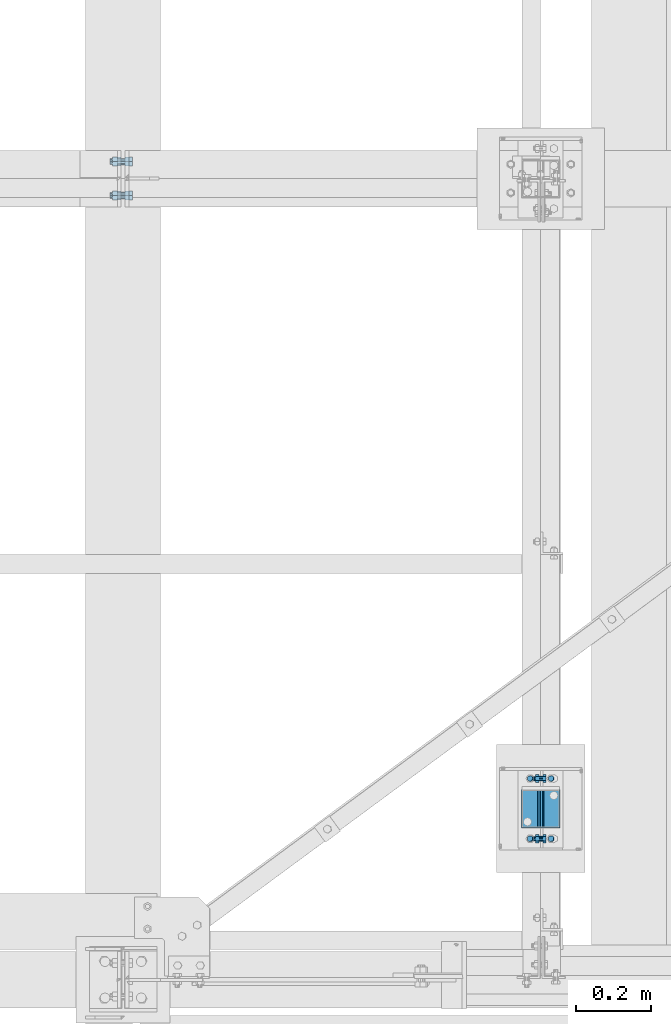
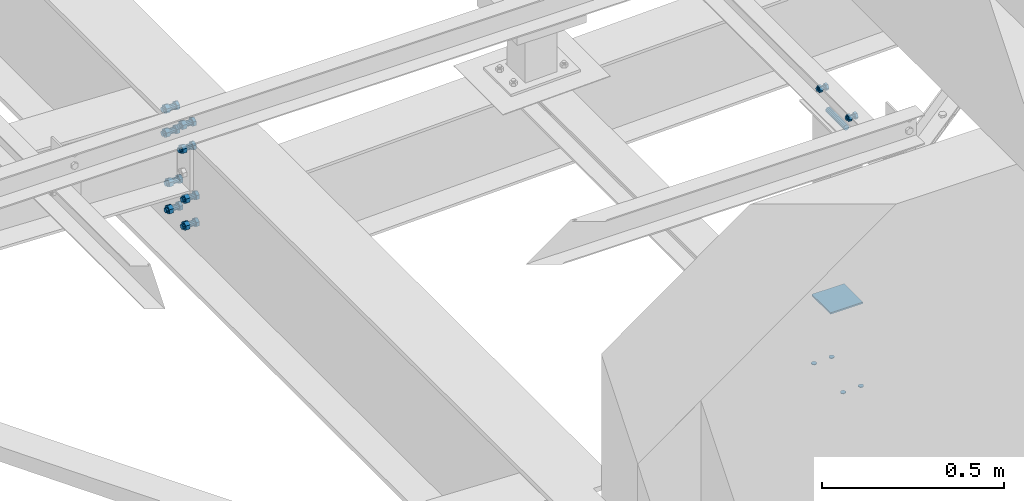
# One storey, part 18 of 3134: 8 mechanical fasteners, 4 elements without a shape of their own.
"""IFC2X3 building model written with IfcOpenShell, lengths in millimetres."""

from ifc_helpers import new_model, si_unit, frame, origin_with_axes, place, context, subcontext, project, spatial, faceted_brep, source, transform, mapped, material, type_object, element, aggregate, save


model = new_model("IFC2X3")

# Units and contexts
model_context = context("Model", 3, precision=1e-05, world=origin_with_axes())
body_context = subcontext(model_context, "Body", "Model", "MODEL_VIEW")
ifc_project = project(units=[si_unit("LENGTHUNIT", "METRE", prefix="MILLI"), si_unit("AREAUNIT", "SQUARE_METRE"), si_unit("VOLUMEUNIT", "CUBIC_METRE"), si_unit("MASSUNIT", "GRAM", prefix="KILO"), si_unit("TIMEUNIT", "SECOND"), si_unit("PLANEANGLEUNIT", "RADIAN"), si_unit("SOLIDANGLEUNIT", "STERADIAN"), si_unit("THERMODYNAMICTEMPERATUREUNIT", "DEGREE_CELSIUS"), si_unit("LUMINOUSINTENSITYUNIT", "LUMEN")], contexts=[model_context])

# Site, building, storey
site_placement = place(None, origin_with_axes())
site = spatial("IfcSite", under=ifc_project, at=site_placement, CompositionType="ELEMENT")
building_placement = place(site_placement, origin_with_axes())
building = spatial("IfcBuilding", under=site, at=building_placement, Name="Undefined", CompositionType="ELEMENT")
storey_placement = place(building_placement, origin_with_axes())
storey = spatial("IfcBuildingStorey", under=building, at=storey_placement, Name="Undefined", CompositionType="ELEMENT", Elevation=0.0)

# Assembly, mechanical fastener
assembly_1_placement = place(storey_placement, origin_with_axes())
assembly_1 = element("IfcElementAssembly", 1, at=assembly_1_placement, inside=storey, AssemblyPlace="NOTDEFINED", PredefinedType="RIGID_FRAME")
ifc_material_1 = material(Name="8.8")
mechanical_fastener_type = type_object("IfcMechanicalFastenerType", Name="Bolt assembly")
shared_shape_1 = source(origin_with_axes(), body_context, "Body", "Brep", [
    faceted_brep([(10.9696551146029, -14.0, 0.0), (5.48482755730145, -14.0, 9.5), (-5.48482755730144, -14.0, 9.5), (-10.9696551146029, -14.0, 1.34339530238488e-15), (-5.48482755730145, -14.0, -9.5), (5.48482755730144, -14.0, -9.50000000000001), (5.48482755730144, -6.0, -9.50000000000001), (-5.48482755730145, -6.0, -9.5), (-10.9696551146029, -6.0, 1.34339530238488e-15), (-5.48482755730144, -6.0, 9.5), (5.48482755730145, -6.0, 9.5), (10.9696551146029, -6.0, 0.0), (6.0, -6.0, 0.0), (5.19615242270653, -6.0, 3.00000000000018), (2.99999999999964, -6.0, 5.19615242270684), (-6.21801588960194e-13, -6.0, 6.0), (-3.00000000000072, -6.0, 5.19615242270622), (-5.19615242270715, -6.0, 2.9999999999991), (-6.0, -6.0, -1.24360317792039e-12), (-5.19615242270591, -6.0, -3.00000000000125), (-2.99999999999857, -6.0, -5.19615242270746), (1.85874342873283e-12, -6.0, -6.0), (3.00000000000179, -6.0, -5.1961524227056), (5.19615242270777, -6.0, -2.99999999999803), (5.19615242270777, 19.0, -2.99999999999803), (3.00000000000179, 19.0, -5.1961524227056), (1.85874342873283e-12, 19.0, -6.0), (-2.99999999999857, 19.0, -5.19615242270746), (-5.19615242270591, 19.0, -3.00000000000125), (-6.0, 19.0, -1.24360317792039e-12), (-5.19615242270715, 19.0, 2.9999999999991), (-3.00000000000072, 19.0, 5.19615242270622), (-6.21801588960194e-13, 19.0, 6.0), (2.99999999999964, 19.0, 5.19615242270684), (5.19615242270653, 19.0, 3.00000000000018), (6.0, 19.0, 0.0), (10.9696551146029, 4.00000000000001, 0.0), (5.48482755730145, 4.00000000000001, 9.5), (-5.48482755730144, 4.00000000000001, 9.5), (-10.9696551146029, 4.00000000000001, 1.34339530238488e-15), (-5.48482755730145, 4.00000000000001, -9.5), (5.48482755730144, 4.00000000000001, -9.50000000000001), (5.48482755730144, 14.0, -9.50000000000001), (-5.48482755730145, 14.0, -9.5), (-10.9696551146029, 14.0, 1.34339530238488e-15), (-5.48482755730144, 14.0, 9.5), (5.48482755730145, 14.0, 9.5), (10.9696551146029, 14.0, 0.0)], [[[0, 1, 2, 3, 4, 5]], [[6, 7, 8, 9, 10, 11]], [[0, 11, 10, 1]], [[1, 10, 9, 2]], [[2, 9, 8, 3]], [[3, 8, 7, 4]], [[4, 7, 6, 5]], [[5, 6, 11, 0]], [[12, 13, 14, 15, 16, 17, 18, 19, 20, 21, 22, 23]], [[24, 25, 26, 27, 28, 29, 30, 31, 32, 33, 34, 35]], [[12, 35, 34, 13]], [[13, 34, 33, 14]], [[14, 33, 32, 15]], [[15, 32, 31, 16]], [[16, 31, 30, 17]], [[17, 30, 29, 18]], [[18, 29, 28, 19]], [[19, 28, 27, 20]], [[20, 27, 26, 21]], [[21, 26, 25, 22]], [[22, 25, 24, 23]], [[23, 24, 35, 12]], [[36, 37, 38, 39, 40, 41]], [[42, 43, 44, 45, 46, 47]], [[36, 47, 46, 37]], [[37, 46, 45, 38]], [[38, 45, 44, 39]], [[39, 44, 43, 40]], [[40, 43, 42, 41]], [[41, 42, 47, 36]]]),
    faceted_brep([(7.0, -5.9, 0.0), (6.06217782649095, -5.9, 3.50000000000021), (3.49999999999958, -5.9, 6.06217782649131), (-7.25435187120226e-13, -5.9, 7.0), (-3.50000000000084, -5.9, 6.06217782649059), (-6.06217782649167, -5.9, 3.49999999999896), (-7.0, -5.9, -1.45087037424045e-12), (-6.06217782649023, -5.9, -3.50000000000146), (-3.49999999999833, -5.9, -6.06217782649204), (2.1685340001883e-12, -5.9, -7.0), (3.50000000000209, -5.9, -6.06217782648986), (6.0621778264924, -5.9, -3.4999999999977), (6.0621778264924, 0.0999999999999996, -3.4999999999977), (3.50000000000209, 0.0999999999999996, -6.06217782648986), (2.1685340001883e-12, 0.0999999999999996, -7.0), (-3.49999999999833, 0.0999999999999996, -6.06217782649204), (-6.06217782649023, 0.0999999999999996, -3.50000000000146), (-7.0, 0.0999999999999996, -1.45087037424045e-12), (-6.06217782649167, 0.0999999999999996, 3.49999999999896), (-3.50000000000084, 0.0999999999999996, 6.06217782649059), (-7.25435187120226e-13, 0.0999999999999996, 7.0), (3.49999999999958, 0.0999999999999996, 6.06217782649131), (6.06217782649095, 0.0999999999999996, 3.50000000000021), (7.0, 0.0999999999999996, 0.0), (7.0, -0.1, 0.0), (6.06217782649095, -0.1, 3.50000000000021), (3.49999999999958, -0.1, 6.06217782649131), (-7.25435187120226e-13, -0.1, 7.0), (-3.50000000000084, -0.1, 6.06217782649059), (-6.06217782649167, -0.1, 3.49999999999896), (-7.0, -0.1, -1.45087037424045e-12), (-6.06217782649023, -0.1, -3.50000000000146), (-3.49999999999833, -0.1, -6.06217782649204), (2.1685340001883e-12, -0.1, -7.0), (3.50000000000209, -0.1, -6.06217782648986), (6.0621778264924, -0.1, -3.4999999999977), (6.0621778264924, 4.00000000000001, -3.4999999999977), (3.50000000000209, 4.00000000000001, -6.06217782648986), (2.1685340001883e-12, 4.00000000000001, -7.0), (-3.49999999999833, 4.00000000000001, -6.06217782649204), (-6.06217782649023, 4.00000000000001, -3.50000000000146), (-7.0, 4.00000000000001, -1.45087037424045e-12), (-6.06217782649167, 4.00000000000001, 3.49999999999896), (-3.50000000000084, 4.00000000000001, 6.06217782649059), (-7.25435187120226e-13, 4.00000000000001, 7.0), (3.49999999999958, 4.00000000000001, 6.06217782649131), (6.06217782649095, 4.00000000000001, 3.50000000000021), (7.0, 4.00000000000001, 0.0)], [[[0, 1, 2, 3, 4, 5, 6, 7, 8, 9, 10, 11]], [[12, 13, 14, 15, 16, 17, 18, 19, 20, 21, 22, 23]], [[0, 23, 22, 1]], [[1, 22, 21, 2]], [[2, 21, 20, 3]], [[3, 20, 19, 4]], [[4, 19, 18, 5]], [[5, 18, 17, 6]], [[6, 17, 16, 7]], [[7, 16, 15, 8]], [[8, 15, 14, 9]], [[9, 14, 13, 10]], [[10, 13, 12, 11]], [[11, 12, 23, 0]], [[24, 25, 26, 27, 28, 29, 30, 31, 32, 33, 34, 35]], [[36, 37, 38, 39, 40, 41, 42, 43, 44, 45, 46, 47]], [[24, 47, 46, 25]], [[25, 46, 45, 26]], [[26, 45, 44, 27]], [[27, 44, 43, 28]], [[28, 43, 42, 29]], [[29, 42, 41, 30]], [[30, 41, 40, 31]], [[31, 40, 39, 32]], [[32, 39, 38, 33]], [[33, 38, 37, 34]], [[34, 37, 36, 35]], [[35, 36, 47, 24]]]),
])
mechanical_fastener_1_placement = place(assembly_1_placement, frame((10405.0, 11305.0, 4300.0), z_axis=(0.0, 0.0, 1.0), x_axis=(0.0, 1.0, 0.0)))
mechanical_fastener_1 = element("IfcMechanicalFastener", 2, at=mechanical_fastener_1_placement, type_object=mechanical_fastener_type, material=ifc_material_1, Name="Bolt assembly", NominalDiameter=12.0, NominalLength=25.0, context=body_context, shape_type="MappedRepresentation", body=[
    mapped(shared_shape_1, transform((0.0, 0.0, 0.0))),
    mapped(shared_shape_1, transform((160.0, 0.0, 0.0))),
])
aggregate(assembly_1, [mechanical_fastener_1])

# Assembly, mechanical fasteners
assembly_2_placement = place(storey_placement, origin_with_axes())
assembly_2 = element("IfcElementAssembly", 3, at=assembly_2_placement, inside=storey, Name="IPE500", AssemblyPlace="NOTDEFINED", PredefinedType="RIGID_FRAME")
shared_shape_2 = source(origin_with_axes(), body_context, "Body", "Brep", [
    faceted_brep([(13.856406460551, 0.0, 0.0), (6.92820323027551, 0.0, 12.0), (-6.92820323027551, 0.0, 12.0), (-13.856406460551, 0.0, 1.69692038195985e-15), (-6.92820323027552, 0.0, -12.0), (6.9282032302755, 0.0, -12.0), (6.9282032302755, 9.99999995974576, -12.0), (-6.92820323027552, 9.99999995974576, -12.0), (-13.856406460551, 9.99999995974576, 1.69692038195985e-15), (-6.92820323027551, 9.99999995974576, 12.0), (6.92820323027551, 9.99999995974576, 12.0), (13.856406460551, 9.99999995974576, 0.0), (8.0, 9.99999995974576, 0.0), (6.92820323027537, 9.99999995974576, 4.00000000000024), (3.99999999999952, 9.99999995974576, 6.92820323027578), (-8.29068785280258e-13, 9.99999995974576, 8.0), (-4.00000000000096, 9.99999995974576, 6.92820323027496), (-6.9282032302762, 9.99999995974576, 3.99999999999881), (-8.0, 9.99999995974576, -1.65813757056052e-12), (-6.92820323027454, 9.99999995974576, -4.00000000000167), (-3.99999999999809, 9.99999995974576, -6.92820323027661), (2.47832457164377e-12, 9.99999995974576, -8.0), (4.00000000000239, 9.99999995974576, -6.92820323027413), (6.92820323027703, 9.99999995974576, -3.99999999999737), (6.92820323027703, 49.9999999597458, -3.99999999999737), (4.00000000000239, 49.9999999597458, -6.92820323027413), (2.47832457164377e-12, 49.9999999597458, -8.0), (-3.99999999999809, 49.9999999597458, -6.92820323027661), (-6.92820323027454, 49.9999999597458, -4.00000000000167), (-8.0, 49.9999999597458, -1.65813757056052e-12), (-6.9282032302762, 49.9999999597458, 3.99999999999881), (-4.00000000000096, 49.9999999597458, 6.92820323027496), (-8.29068785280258e-13, 49.9999999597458, 8.0), (3.99999999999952, 49.9999999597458, 6.92820323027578), (6.92820323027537, 49.9999999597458, 4.00000000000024), (8.0, 49.9999999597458, 0.0), (13.856406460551, 30.1999997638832, 0.0), (6.92820323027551, 30.1999997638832, 12.0), (-6.92820323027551, 30.1999997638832, 12.0), (-13.856406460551, 30.1999997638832, 1.69692038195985e-15), (-6.92820323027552, 30.1999997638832, -12.0), (6.9282032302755, 30.1999997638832, -12.0), (6.9282032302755, 43.1999997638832, -12.0), (-6.92820323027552, 43.1999997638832, -12.0), (-13.856406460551, 43.1999997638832, 1.69692038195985e-15), (-6.92820323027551, 43.1999997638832, 12.0), (6.92820323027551, 43.1999997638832, 12.0), (13.856406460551, 43.1999997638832, 0.0)], [[[0, 1, 2, 3, 4, 5]], [[6, 7, 8, 9, 10, 11]], [[0, 11, 10, 1]], [[1, 10, 9, 2]], [[2, 9, 8, 3]], [[3, 8, 7, 4]], [[4, 7, 6, 5]], [[5, 6, 11, 0]], [[12, 13, 14, 15, 16, 17, 18, 19, 20, 21, 22, 23]], [[24, 25, 26, 27, 28, 29, 30, 31, 32, 33, 34, 35]], [[12, 35, 34, 13]], [[13, 34, 33, 14]], [[14, 33, 32, 15]], [[15, 32, 31, 16]], [[16, 31, 30, 17]], [[17, 30, 29, 18]], [[18, 29, 28, 19]], [[19, 28, 27, 20]], [[20, 27, 26, 21]], [[21, 26, 25, 22]], [[22, 25, 24, 23]], [[23, 24, 35, 12]], [[36, 37, 38, 39, 40, 41]], [[42, 43, 44, 45, 46, 47]], [[36, 47, 46, 37]], [[37, 46, 45, 38]], [[38, 45, 44, 39]], [[39, 44, 43, 40]], [[40, 43, 42, 41]], [[41, 42, 47, 36]]]),
    faceted_brep([(9.0, 20.0999997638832, 0.0), (7.79422863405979, 20.0999997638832, 4.50000000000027), (4.49999999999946, 20.0999997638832, 7.79422863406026), (-9.3270238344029e-13, 20.0999997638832, 9.0), (-4.50000000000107, 20.0999997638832, 7.79422863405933), (-7.79422863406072, 20.0999997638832, 4.49999999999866), (-9.0, 20.0999997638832, -1.86540476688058e-12), (-7.79422863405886, 20.0999997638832, -4.50000000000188), (-4.49999999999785, 20.0999997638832, -7.79422863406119), (2.78811514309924e-12, 20.0999997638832, -9.0), (4.50000000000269, 20.0999997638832, -7.7942286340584), (7.79422863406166, 20.0999997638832, -4.49999999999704), (7.79422863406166, 30.1999997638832, -4.49999999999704), (4.50000000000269, 30.1999997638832, -7.7942286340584), (2.78811514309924e-12, 30.1999997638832, -9.0), (-4.49999999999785, 30.1999997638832, -7.79422863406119), (-7.79422863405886, 30.1999997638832, -4.50000000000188), (-9.0, 30.1999997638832, -1.86540476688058e-12), (-7.79422863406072, 30.1999997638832, 4.49999999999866), (-4.50000000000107, 30.1999997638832, 7.79422863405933), (-9.3270238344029e-13, 30.1999997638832, 9.0), (4.49999999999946, 30.1999997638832, 7.79422863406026), (7.79422863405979, 30.1999997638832, 4.50000000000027), (9.0, 30.1999997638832, 0.0), (9.0, 10.1000023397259, 0.0), (7.79422863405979, 10.1000023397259, 4.50000000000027), (4.49999999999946, 10.1000023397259, 7.79422863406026), (-9.3270238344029e-13, 10.1000023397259, 9.0), (-4.50000000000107, 10.1000023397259, 7.79422863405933), (-7.79422863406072, 10.1000023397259, 4.49999999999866), (-9.0, 10.1000023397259, -1.86540476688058e-12), (-7.79422863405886, 10.1000023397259, -4.50000000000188), (-4.49999999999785, 10.1000023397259, -7.79422863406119), (2.78811514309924e-12, 10.1000023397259, -9.0), (4.50000000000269, 10.1000023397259, -7.7942286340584), (7.79422863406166, 10.1000023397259, -4.49999999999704), (7.79422863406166, 20.2999997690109, -4.49999999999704), (4.50000000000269, 20.2999997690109, -7.7942286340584), (2.78811514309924e-12, 20.2999997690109, -9.0), (-4.49999999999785, 20.2999997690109, -7.79422863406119), (-7.79422863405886, 20.2999997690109, -4.50000000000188), (-9.0, 20.2999997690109, -1.86540476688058e-12), (-7.79422863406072, 20.2999997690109, 4.49999999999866), (-4.50000000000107, 20.2999997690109, 7.79422863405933), (-9.3270238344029e-13, 20.2999997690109, 9.0), (4.49999999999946, 20.2999997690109, 7.79422863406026), (7.79422863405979, 20.2999997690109, 4.50000000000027), (9.0, 20.2999997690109, 0.0)], [[[0, 1, 2, 3, 4, 5, 6, 7, 8, 9, 10, 11]], [[12, 13, 14, 15, 16, 17, 18, 19, 20, 21, 22, 23]], [[0, 23, 22, 1]], [[1, 22, 21, 2]], [[2, 21, 20, 3]], [[3, 20, 19, 4]], [[4, 19, 18, 5]], [[5, 18, 17, 6]], [[6, 17, 16, 7]], [[7, 16, 15, 8]], [[8, 15, 14, 9]], [[9, 14, 13, 10]], [[10, 13, 12, 11]], [[11, 12, 23, 0]], [[24, 25, 26, 27, 28, 29, 30, 31, 32, 33, 34, 35]], [[36, 37, 38, 39, 40, 41, 42, 43, 44, 45, 46, 47]], [[24, 47, 46, 25]], [[25, 46, 45, 26]], [[26, 45, 44, 27]], [[27, 44, 43, 28]], [[28, 43, 42, 29]], [[29, 42, 41, 30]], [[30, 41, 40, 31]], [[31, 40, 39, 32]], [[32, 39, 38, 33]], [[33, 38, 37, 34]], [[34, 37, 36, 35]], [[35, 36, 47, 24]]]),
])
mechanical_fastener_2_placement = place(assembly_2_placement, frame((9310.09999986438, 13015.0, 3631.67000001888), z_axis=(0.0, 1.0, 0.0), x_axis=(0.0, 0.0, -1.0)))
mechanical_fastener_2 = element("IfcMechanicalFastener", 4, at=mechanical_fastener_2_placement, type_object=mechanical_fastener_type, material=ifc_material_1, Name="Bolt assembly", NominalDiameter=16.0, NominalLength=40.0, context=body_context, shape_type="MappedRepresentation", body=[
    mapped(shared_shape_2, transform((0.0, 0.0, 0.0))),
    mapped(shared_shape_2, transform((80.0, 0.0, 0.0))),
])
mechanical_fastener_3_placement = place(assembly_2_placement, frame((9310.09999986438, 13105.0, 3631.67000001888), z_axis=(0.0, 1.0, 0.0), x_axis=(0.0, 0.0, -1.0)))
mechanical_fastener_3 = element("IfcMechanicalFastener", 5, at=mechanical_fastener_3_placement, type_object=mechanical_fastener_type, material=ifc_material_1, Name="Bolt assembly", NominalDiameter=16.0, NominalLength=40.0, context=body_context, shape_type="MappedRepresentation", body=[
    mapped(shared_shape_2, transform((0.0, 0.0, 0.0))),
    mapped(shared_shape_2, transform((80.0, 0.0, 0.0))),
])
shared_shape_3 = source(origin_with_axes(), body_context, "Body", "Brep", [
    faceted_brep([(13.856406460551, -10.0, 0.0), (6.92820323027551, -10.0, 12.0), (-6.92820323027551, -10.0, 12.0), (-13.856406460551, -10.0, 1.69692038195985e-15), (-6.92820323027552, -10.0, -12.0), (6.9282032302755, -10.0, -12.0), (6.9282032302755, 0.0, -12.0), (-6.92820323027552, 0.0, -12.0), (-13.856406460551, 0.0, 1.69692038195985e-15), (-6.92820323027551, 0.0, 12.0), (6.92820323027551, 0.0, 12.0), (13.856406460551, 0.0, 0.0), (8.0, 0.0, 0.0), (6.92820323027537, 0.0, 4.00000000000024), (3.99999999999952, 0.0, 6.92820323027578), (-8.29068785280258e-13, 0.0, 8.0), (-4.00000000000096, 0.0, 6.92820323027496), (-6.9282032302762, 0.0, 3.99999999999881), (-8.0, 0.0, -1.65813757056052e-12), (-6.92820323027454, 0.0, -4.00000000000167), (-3.99999999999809, 0.0, -6.92820323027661), (2.47832457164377e-12, 0.0, -8.0), (4.00000000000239, 0.0, -6.92820323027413), (6.92820323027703, 0.0, -3.99999999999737), (6.92820323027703, 40.0, -3.99999999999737), (4.00000000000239, 40.0, -6.92820323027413), (2.47832457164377e-12, 40.0, -8.0), (-3.99999999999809, 40.0, -6.92820323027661), (-6.92820323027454, 40.0, -4.00000000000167), (-8.0, 40.0, -1.65813757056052e-12), (-6.9282032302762, 40.0, 3.99999999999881), (-4.00000000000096, 40.0, 6.92820323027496), (-8.29068785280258e-13, 40.0, 8.0), (3.99999999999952, 40.0, 6.92820323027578), (6.92820323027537, 40.0, 4.00000000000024), (8.0, 40.0, 0.0), (13.856406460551, 20.1999997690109, 0.0), (6.92820323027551, 20.1999997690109, 12.0), (-6.92820323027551, 20.1999997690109, 12.0), (-13.856406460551, 20.1999997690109, 1.69692038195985e-15), (-6.92820323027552, 20.1999997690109, -12.0), (6.9282032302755, 20.1999997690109, -12.0), (6.9282032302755, 33.1999997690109, -12.0), (-6.92820323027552, 33.1999997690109, -12.0), (-13.856406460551, 33.1999997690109, 1.69692038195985e-15), (-6.92820323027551, 33.1999997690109, 12.0), (6.92820323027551, 33.1999997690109, 12.0), (13.856406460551, 33.1999997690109, 0.0)], [[[0, 1, 2, 3, 4, 5]], [[6, 7, 8, 9, 10, 11]], [[0, 11, 10, 1]], [[1, 10, 9, 2]], [[2, 9, 8, 3]], [[3, 8, 7, 4]], [[4, 7, 6, 5]], [[5, 6, 11, 0]], [[12, 13, 14, 15, 16, 17, 18, 19, 20, 21, 22, 23]], [[24, 25, 26, 27, 28, 29, 30, 31, 32, 33, 34, 35]], [[12, 35, 34, 13]], [[13, 34, 33, 14]], [[14, 33, 32, 15]], [[15, 32, 31, 16]], [[16, 31, 30, 17]], [[17, 30, 29, 18]], [[18, 29, 28, 19]], [[19, 28, 27, 20]], [[20, 27, 26, 21]], [[21, 26, 25, 22]], [[22, 25, 24, 23]], [[23, 24, 35, 12]], [[36, 37, 38, 39, 40, 41]], [[42, 43, 44, 45, 46, 47]], [[36, 47, 46, 37]], [[37, 46, 45, 38]], [[38, 45, 44, 39]], [[39, 44, 43, 40]], [[40, 43, 42, 41]], [[41, 42, 47, 36]]]),
    faceted_brep([(9.0, 0.100000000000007, 0.0), (7.79422863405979, 0.100000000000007, 4.50000000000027), (4.49999999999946, 0.100000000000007, 7.79422863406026), (-9.3270238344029e-13, 0.100000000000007, 9.0), (-4.50000000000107, 0.100000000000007, 7.79422863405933), (-7.79422863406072, 0.100000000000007, 4.49999999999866), (-9.0, 0.100000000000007, -1.86540476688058e-12), (-7.79422863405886, 0.100000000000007, -4.50000000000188), (-4.49999999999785, 0.100000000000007, -7.79422863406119), (2.78811514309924e-12, 0.100000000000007, -9.0), (4.50000000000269, 0.100000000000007, -7.7942286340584), (7.79422863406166, 0.100000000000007, -4.49999999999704), (7.79422863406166, 10.1000023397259, -4.49999999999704), (4.50000000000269, 10.1000023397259, -7.7942286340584), (2.78811514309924e-12, 10.1000023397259, -9.0), (-4.49999999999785, 10.1000023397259, -7.79422863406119), (-7.79422863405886, 10.1000023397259, -4.50000000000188), (-9.0, 10.1000023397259, -1.86540476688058e-12), (-7.79422863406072, 10.1000023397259, 4.49999999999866), (-4.50000000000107, 10.1000023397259, 7.79422863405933), (-9.3270238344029e-13, 10.1000023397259, 9.0), (4.49999999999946, 10.1000023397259, 7.79422863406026), (7.79422863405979, 10.1000023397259, 4.50000000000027), (9.0, 10.1000023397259, 0.0), (9.0, 9.89999999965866, 0.0), (7.79422863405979, 9.89999999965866, 4.50000000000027), (4.49999999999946, 9.89999999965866, 7.79422863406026), (-9.3270238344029e-13, 9.89999999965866, 9.0), (-4.50000000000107, 9.89999999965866, 7.79422863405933), (-7.79422863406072, 9.89999999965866, 4.49999999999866), (-9.0, 9.89999999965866, -1.86540476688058e-12), (-7.79422863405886, 9.89999999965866, -4.50000000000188), (-4.49999999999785, 9.89999999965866, -7.79422863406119), (2.78811514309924e-12, 9.89999999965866, -9.0), (4.50000000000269, 9.89999999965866, -7.7942286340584), (7.79422863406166, 9.89999999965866, -4.49999999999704), (7.79422863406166, 20.1999997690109, -4.49999999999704), (4.50000000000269, 20.1999997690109, -7.7942286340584), (2.78811514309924e-12, 20.1999997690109, -9.0), (-4.49999999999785, 20.1999997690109, -7.79422863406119), (-7.79422863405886, 20.1999997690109, -4.50000000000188), (-9.0, 20.1999997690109, -1.86540476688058e-12), (-7.79422863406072, 20.1999997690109, 4.49999999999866), (-4.50000000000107, 20.1999997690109, 7.79422863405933), (-9.3270238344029e-13, 20.1999997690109, 9.0), (4.49999999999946, 20.1999997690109, 7.79422863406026), (7.79422863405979, 20.1999997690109, 4.50000000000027), (9.0, 20.1999997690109, 0.0)], [[[0, 1, 2, 3, 4, 5, 6, 7, 8, 9, 10, 11]], [[12, 13, 14, 15, 16, 17, 18, 19, 20, 21, 22, 23]], [[0, 23, 22, 1]], [[1, 22, 21, 2]], [[2, 21, 20, 3]], [[3, 20, 19, 4]], [[4, 19, 18, 5]], [[5, 18, 17, 6]], [[6, 17, 16, 7]], [[7, 16, 15, 8]], [[8, 15, 14, 9]], [[9, 14, 13, 10]], [[10, 13, 12, 11]], [[11, 12, 23, 0]], [[24, 25, 26, 27, 28, 29, 30, 31, 32, 33, 34, 35]], [[36, 37, 38, 39, 40, 41, 42, 43, 44, 45, 46, 47]], [[24, 47, 46, 25]], [[25, 46, 45, 26]], [[26, 45, 44, 27]], [[27, 44, 43, 28]], [[28, 43, 42, 29]], [[29, 42, 41, 30]], [[30, 41, 40, 31]], [[31, 40, 39, 32]], [[32, 39, 38, 33]], [[33, 38, 37, 34]], [[34, 37, 36, 35]], [[35, 36, 47, 24]]]),
])
mechanical_fastener_4_placement = place(assembly_2_placement, frame((9310.09999986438, 13015.0, 3381.67000001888), z_axis=(0.0, 1.0, 0.0), x_axis=(0.0, 0.0, -1.0)))
mechanical_fastener_4 = element("IfcMechanicalFastener", 6, at=mechanical_fastener_4_placement, type_object=mechanical_fastener_type, material=ifc_material_1, Name="Bolt assembly", NominalDiameter=16.0, NominalLength=40.0, context=body_context, shape_type="MappedRepresentation", body=[
    mapped(shared_shape_3, transform((0.0, 0.0, 0.0))),
    mapped(shared_shape_3, transform((90.0, 0.0, 0.0))),
])
mechanical_fastener_5_placement = place(assembly_2_placement, frame((9310.09999986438, 13105.0, 3381.67000001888), z_axis=(0.0, 1.0, 0.0), x_axis=(0.0, 0.0, -1.0)))
mechanical_fastener_5 = element("IfcMechanicalFastener", 7, at=mechanical_fastener_5_placement, type_object=mechanical_fastener_type, material=ifc_material_1, Name="Bolt assembly", NominalDiameter=16.0, NominalLength=40.0, context=body_context, shape_type="MappedRepresentation", body=[
    mapped(shared_shape_3, transform((0.0, 0.0, 0.0))),
    mapped(shared_shape_3, transform((90.0, 0.0, 0.0))),
])
aggregate(assembly_2, [mechanical_fastener_2, mechanical_fastener_3, mechanical_fastener_4, mechanical_fastener_5])

# Assembly, mechanical fastener
assembly_3_placement = place(storey_placement, origin_with_axes())
assembly_3 = element("IfcElementAssembly", 8, at=assembly_3_placement, inside=storey, AssemblyPlace="NOTDEFINED", PredefinedType="RIGID_FRAME")
shared_shape_4 = source(origin_with_axes(), body_context, "Body", "Brep", [
    faceted_brep([(7.0, 13.0000253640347, 0.0), (6.06217782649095, 13.0000253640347, 3.50000000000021), (3.49999999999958, 13.0000253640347, 6.06217782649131), (-7.25435187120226e-13, 13.0000253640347, 7.0), (-3.50000000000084, 13.0000253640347, 6.06217782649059), (-6.06217782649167, 13.0000253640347, 3.49999999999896), (-7.0, 13.0000253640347, -1.45087037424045e-12), (-6.06217782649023, 13.0000253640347, -3.50000000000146), (-3.49999999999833, 13.0000253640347, -6.06217782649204), (2.1685340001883e-12, 13.0000253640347, -7.0), (3.50000000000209, 13.0000253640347, -6.06217782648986), (6.0621778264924, 13.0000253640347, -3.4999999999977), (6.0621778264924, 15.0999999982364, -3.4999999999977), (3.50000000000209, 15.0999999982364, -6.06217782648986), (2.1685340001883e-12, 15.0999999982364, -7.0), (-3.49999999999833, 15.0999999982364, -6.06217782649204), (-6.06217782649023, 15.0999999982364, -3.50000000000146), (-7.0, 15.0999999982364, -1.45087037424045e-12), (-6.06217782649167, 15.0999999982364, 3.49999999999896), (-3.50000000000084, 15.0999999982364, 6.06217782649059), (-7.25435187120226e-13, 15.0999999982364, 7.0), (3.49999999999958, 15.0999999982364, 6.06217782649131), (6.06217782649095, 15.0999999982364, 3.50000000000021), (7.0, 15.0999999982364, 0.0)], [[[0, 1, 2, 3, 4, 5, 6, 7, 8, 9, 10, 11]], [[12, 13, 14, 15, 16, 17, 18, 19, 20, 21, 22, 23]], [[0, 23, 22, 1]], [[1, 22, 21, 2]], [[2, 21, 20, 3]], [[3, 20, 19, 4]], [[4, 19, 18, 5]], [[5, 18, 17, 6]], [[6, 17, 16, 7]], [[7, 16, 15, 8]], [[8, 15, 14, 9]], [[9, 14, 13, 10]], [[10, 13, 12, 11]], [[11, 12, 23, 0]]]),
])
mechanical_fastener_6_placement = place(assembly_3_placement, frame((10433.639796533, 11384.9983647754, 3375.07493090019), z_axis=(0.0, 1.0, 0.0), x_axis=(-0.999519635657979, 0.0, -0.0309919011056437)))
mechanical_fastener_6 = element("IfcMechanicalFastener", 9, at=mechanical_fastener_6_placement, type_object=mechanical_fastener_type, material=ifc_material_1, Name="Bolt assembly", NominalDiameter=12.0, NominalLength=2.0, context=body_context, shape_type="MappedRepresentation", body=[
    mapped(shared_shape_4, transform((0.0, 5.3114490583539e-10, 79.9999999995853))),
    mapped(shared_shape_4, transform((55.9999999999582, 4.54747350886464e-13, 80.0))),
    mapped(shared_shape_4, transform((0.0, -5.32963895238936e-10, -79.9999999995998))),
    mapped(shared_shape_4, transform((55.9999999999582, 4.54747350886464e-13, -80.0))),
])
aggregate(assembly_3, [mechanical_fastener_6])

# Assembly, mechanical fasteners
assembly_4_placement = place(storey_placement, origin_with_axes())
assembly_4 = element("IfcElementAssembly", 10, at=assembly_4_placement, inside=storey, AssemblyPlace="NOTDEFINED", PredefinedType="RIGID_FRAME")
shared_shape_5 = source(origin_with_axes(), body_context, "Body", "Brep", [
    faceted_brep([(9.0, -50.0, 0.0), (7.79422863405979, -50.0, 4.50000000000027), (4.49999999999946, -50.0, 7.79422863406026), (-9.3270238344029e-13, -50.0, 9.0), (-4.50000000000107, -50.0, 7.79422863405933), (-7.79422863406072, -50.0, 4.49999999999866), (-9.0, -50.0, -1.86540476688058e-12), (-7.79422863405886, -50.0, -4.50000000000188), (-4.49999999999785, -50.0, -7.79422863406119), (2.78811514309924e-12, -50.0, -9.0), (4.50000000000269, -50.0, -7.7942286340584), (7.79422863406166, -50.0, -4.49999999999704), (7.79422863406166, 50.1, -4.49999999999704), (4.50000000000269, 50.1, -7.7942286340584), (2.78811514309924e-12, 50.1, -9.0), (-4.49999999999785, 50.1, -7.79422863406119), (-7.79422863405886, 50.1, -4.50000000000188), (-9.0, 50.1, -1.86540476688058e-12), (-7.79422863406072, 50.1, 4.49999999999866), (-4.50000000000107, 50.1, 7.79422863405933), (-9.3270238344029e-13, 50.1, 9.0), (4.49999999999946, 50.1, 7.79422863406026), (7.79422863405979, 50.1, 4.50000000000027), (9.0, 50.1, 0.0)], [[[0, 1, 2, 3, 4, 5, 6, 7, 8, 9, 10, 11]], [[12, 13, 14, 15, 16, 17, 18, 19, 20, 21, 22, 23]], [[0, 23, 22, 1]], [[1, 22, 21, 2]], [[2, 21, 20, 3]], [[3, 20, 19, 4]], [[4, 19, 18, 5]], [[5, 18, 17, 6]], [[6, 17, 16, 7]], [[7, 16, 15, 8]], [[8, 15, 14, 9]], [[9, 14, 13, 10]], [[10, 13, 12, 11]], [[11, 12, 23, 0]]]),
])
mechanical_fastener_7_placement = place(assembly_4_placement, frame((10405.0, 11385.0, 4245.0), z_axis=(-1.0, 0.0, 0.0), x_axis=(0.0, 0.0, 1.0)))
mechanical_fastener_7 = element("IfcMechanicalFastener", 11, at=mechanical_fastener_7_placement, type_object=mechanical_fastener_type, material=ifc_material_1, Name="Bolt assembly", NominalDiameter=16.0, NominalLength=100.0, context=body_context, shape_type="MappedRepresentation", body=[
    mapped(shared_shape_5, transform((0.0, 0.0, 0.0))),
])
ifc_material_2 = material(Name="6.8")
shared_shape_6 = source(origin_with_axes(), body_context, "Body", "Brep", [
    faceted_brep([(51.5, 1.36424205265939e-12, 50.0), (51.3858192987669, 1.36424205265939e-12, 50.5740251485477), (51.0606601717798, 1.36424205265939e-12, 51.0606601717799), (50.5740251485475, 1.36424205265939e-12, 51.385819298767), (-50.0000000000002, 1.36424205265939e-12, 51.5), (-50.7500000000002, 1.36424205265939e-12, 51.2990381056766), (-51.2990381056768, 1.36424205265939e-12, 50.7499999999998), (-51.5, 1.36424205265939e-12, 49.9999999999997), (-51.5, 1.36424205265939e-12, -50.0000000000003), (-51.2990381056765, 1.36424205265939e-12, -50.7500000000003), (-50.7499999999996, 1.36424205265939e-12, -51.2990381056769), (-49.9999999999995, 1.36424205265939e-12, -51.5), (50.0000000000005, 1.36424205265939e-12, -51.5), (50.7500000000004, 1.36424205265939e-12, -51.2990381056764), (51.2990381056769, 1.36424205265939e-12, -50.7499999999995), (51.5, 1.36424205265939e-12, -49.9999999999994), (51.5, 5.10000000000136, -49.9999999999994), (51.2990381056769, 5.10000000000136, -50.7499999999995), (50.7500000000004, 5.10000000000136, -51.2990381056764), (50.0000000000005, 5.10000000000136, -51.5), (-49.9999999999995, 5.10000000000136, -51.5), (-50.7499999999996, 5.10000000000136, -51.2990381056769), (-51.2990381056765, 5.10000000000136, -50.7500000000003), (-51.5, 5.10000000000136, -50.0000000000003), (-51.5, 5.10000000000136, 49.9999999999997), (-51.2990381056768, 5.10000000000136, 50.7499999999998), (-50.7500000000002, 5.10000000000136, 51.2990381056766), (-50.0000000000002, 5.10000000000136, 51.5), (50.5740251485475, 5.10000000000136, 51.385819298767), (51.0606601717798, 5.10000000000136, 51.0606601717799), (51.3858192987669, 5.10000000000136, 50.5740251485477), (51.5, 5.10000000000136, 50.0)], [[[0, 1, 2, 3, 4, 5, 6, 7, 8, 9, 10, 11, 12, 13, 14, 15]], [[16, 17, 18, 19, 20, 21, 22, 23, 24, 25, 26, 27, 28, 29, 30, 31]], [[0, 31, 30, 1]], [[1, 30, 29, 2]], [[2, 29, 28, 3]], [[3, 28, 27, 4]], [[4, 27, 26, 5]], [[5, 26, 25, 6]], [[6, 25, 24, 7]], [[7, 24, 23, 8]], [[8, 23, 22, 9]], [[9, 22, 21, 10]], [[10, 21, 20, 11]], [[11, 20, 19, 12]], [[12, 19, 18, 13]], [[13, 18, 17, 14]], [[14, 17, 16, 15]], [[15, 16, 31, 0]]]),
])
mechanical_fastener_8_placement = place(assembly_4_placement, frame((10405.0, 11385.0, 3643.81), z_axis=(0.0, -1.0, 0.0), x_axis=(-1.0, 0.0, 0.0)))
mechanical_fastener_8 = element("IfcMechanicalFastener", 12, at=mechanical_fastener_8_placement, type_object=mechanical_fastener_type, material=ifc_material_2, Name="Bolt assembly", NominalDiameter=10.0, NominalLength=5.0, context=body_context, shape_type="MappedRepresentation", body=[
    mapped(shared_shape_6, transform((0.0, 0.0, 0.0))),
])
aggregate(assembly_4, [mechanical_fastener_8, mechanical_fastener_7])

save(model, "model.ifc")
